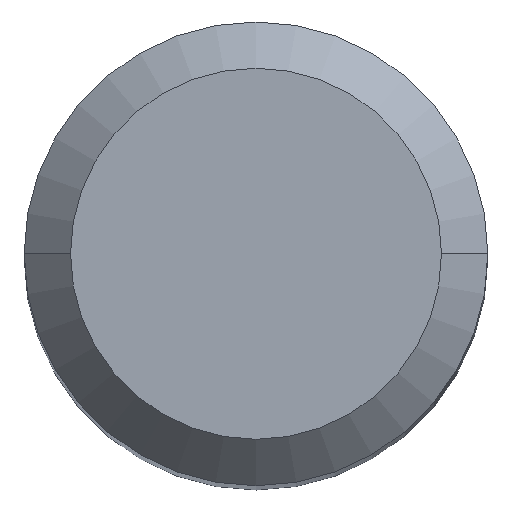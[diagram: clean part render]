
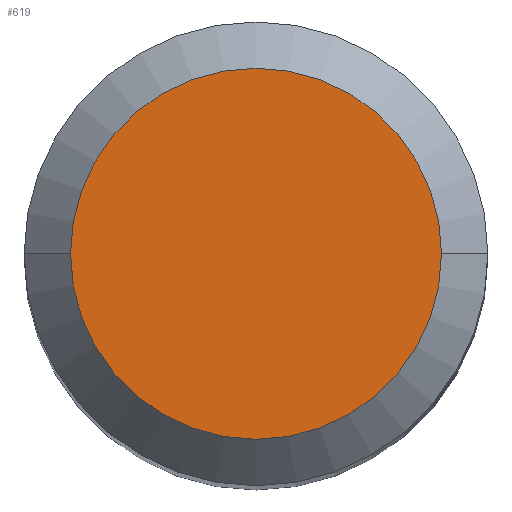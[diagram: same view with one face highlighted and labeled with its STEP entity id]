
A CAD part, top view. The second image highlights one B-rep face of the part: STEP entity #619.
In plain terms, the highlighted planar face has unit normal (0, 0, 1).
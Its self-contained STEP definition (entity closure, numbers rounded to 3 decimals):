
#60 = DIRECTION ( 'NONE',  ( 1., 0., 0. ) ) ;
#108 = DIRECTION ( 'NONE',  ( -1., 0., 0. ) ) ;
#114 = DIRECTION ( 'NONE',  ( 0., 0., 1. ) ) ;
#122 = EDGE_CURVE ( 'NONE', #456, #240, #144, .T. ) ;
#144 = CIRCLE ( 'NONE', #514, 3.2 ) ;
#169 = AXIS2_PLACEMENT_3D ( 'NONE', #631, #531, #321 ) ;
#240 = VERTEX_POINT ( 'NONE', #298 ) ;
#277 = CIRCLE ( 'NONE', #169, 3.2 ) ;
#298 = CARTESIAN_POINT ( 'NONE',  ( 3.2, 0., 0. ) ) ;
#321 = DIRECTION ( 'NONE',  ( -1., 0., 0. ) ) ;
#366 = CARTESIAN_POINT ( 'NONE',  ( 0., 0., 0. ) ) ;
#367 = CARTESIAN_POINT ( 'NONE',  ( 0., 3.2, 0. ) ) ;
#415 = EDGE_CURVE ( 'NONE', #240, #456, #277, .T. ) ;
#417 = FACE_OUTER_BOUND ( 'NONE', #636, .T. ) ;
#432 = AXIS2_PLACEMENT_3D ( 'NONE', #367, #114, #60 ) ;
#456 = VERTEX_POINT ( 'NONE', #511 ) ;
#492 = ORIENTED_EDGE ( 'NONE', *, *, #122, .F. ) ;
#511 = CARTESIAN_POINT ( 'NONE',  ( -3.2, 0., 0. ) ) ;
#514 = AXIS2_PLACEMENT_3D ( 'NONE', #366, #576, #108 ) ;
#519 = PLANE ( 'NONE',  #432 ) ;
#531 = DIRECTION ( 'NONE',  ( 0., 0., -1. ) ) ;
#555 = ORIENTED_EDGE ( 'NONE', *, *, #415, .F. ) ;
#576 = DIRECTION ( 'NONE',  ( 0., 0., -1. ) ) ;
#619 = ADVANCED_FACE ( 'NONE', ( #417 ), #519, .T. ) ;
#631 = CARTESIAN_POINT ( 'NONE',  ( 0., 0., 0. ) ) ;
#636 = EDGE_LOOP ( 'NONE', ( #492, #555 ) ) ;
